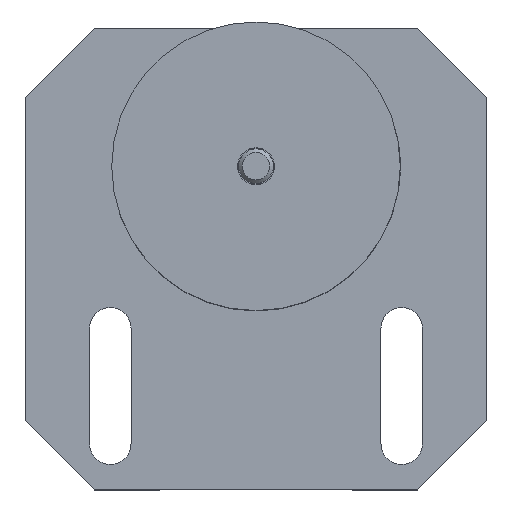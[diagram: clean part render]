
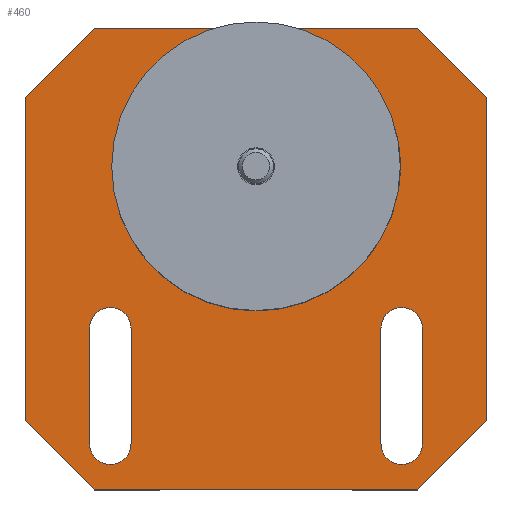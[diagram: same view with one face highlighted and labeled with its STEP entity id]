
A CAD part, top view. The second image highlights one B-rep face of the part: STEP entity #460.
In plain terms, the highlighted planar face has unit normal (0, 0, 1).
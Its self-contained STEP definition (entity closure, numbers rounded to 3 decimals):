
#460=ADVANCED_FACE('', (#470,#480,#490,#500), #510, .T.);
#3660=AXIS2_PLACEMENT_3D('Ax2Pl3d', #3670, #3680, #3690);
#3940=AXIS2_PLACEMENT_3D('Ax2Pl3d', #3950, #3960, #3970);
#4180=AXIS2_PLACEMENT_3D('Ax2Pl3d', #4190, #4200, #4210);
#4220=AXIS2_PLACEMENT_3D('Ax2Pl3d', #4230, #4240, #4250);
#4260=AXIS2_PLACEMENT_3D('Ax2Pl3d', #4270, #4280, #4290);
#4300=AXIS2_PLACEMENT_3D('Ax2Pl3d', #4310, #4320, #4330);
#4340=AXIS2_PLACEMENT_3D('Ax2Pl3d', #4350, #4360, #4370);
#18640=CARTESIAN_POINT('', (271.19,141.687,73.908));
#18650=CARTESIAN_POINT('', (303.19,141.687,73.908));
#18660=CARTESIAN_POINT('', (303.19,141.687,73.908));
#18750=CARTESIAN_POINT('', (271.19,151.687,73.908));
#3670=CARTESIAN_POINT('HicPkt', (271.19,146.687,
73.908));
#18810=CARTESIAN_POINT('', (303.19,151.687,73.908));
#18820=CARTESIAN_POINT('', (271.19,151.687,73.908));
#3950=CARTESIAN_POINT('HicPkt', (303.19,146.687,
73.908));
#4190=CARTESIAN_POINT('HicPkt', (327.19,156.687,
73.908));
#18920=CARTESIAN_POINT('', (259.19,170.687,73.908));
#18930=CARTESIAN_POINT('', (315.19,170.687,73.908));
#18940=CARTESIAN_POINT('', (259.19,170.687,73.908));
#18950=CARTESIAN_POINT('', (247.19,158.687,73.908));
#18960=CARTESIAN_POINT('', (247.19,158.687,73.908));
#18970=CARTESIAN_POINT('', (247.19,158.687,73.908));
#18980=CARTESIAN_POINT('', (247.19,102.687,73.908));
#18990=CARTESIAN_POINT('', (259.19,90.687,73.908));
#19000=CARTESIAN_POINT('', (259.19,90.687,73.908));
#19010=CARTESIAN_POINT('', (315.19,90.687,73.908));
#19020=CARTESIAN_POINT('', (315.19,90.687,73.908));
#19030=CARTESIAN_POINT('', (327.19,102.687,73.908));
#19040=CARTESIAN_POINT('', (327.19,102.687,73.908));
#19050=CARTESIAN_POINT('', (327.19,102.687,73.908));
#19060=CARTESIAN_POINT('', (327.19,158.687,73.908));
#19070=CARTESIAN_POINT('', (315.19,170.687,73.908));
#4230=CARTESIAN_POINT('HicPkt', (312.44,98.687,
73.908));
#19080=CARTESIAN_POINT('', (308.84,98.687,73.908));
#19090=CARTESIAN_POINT('', (316.04,98.687,73.908));
#19100=CARTESIAN_POINT('', (308.84,98.687,73.908));
#19110=CARTESIAN_POINT('', (308.84,118.687,73.908));
#4270=CARTESIAN_POINT('HicPkt', (312.44,118.687,
73.908));
#19120=CARTESIAN_POINT('', (316.04,118.687,73.908));
#19130=CARTESIAN_POINT('', (316.04,118.687,73.908));
#4310=CARTESIAN_POINT('HicPkt', (261.94,98.687,
73.908));
#19140=CARTESIAN_POINT('', (258.34,98.687,73.908));
#19150=CARTESIAN_POINT('', (265.54,98.687,73.908));
#19160=CARTESIAN_POINT('', (258.34,98.687,73.908));
#19170=CARTESIAN_POINT('', (258.34,118.687,73.908));
#4350=CARTESIAN_POINT('HicPkt', (261.94,118.687,
73.908));
#19180=CARTESIAN_POINT('', (265.54,118.687,73.908));
#19190=CARTESIAN_POINT('', (265.54,118.687,73.908));
#21130=CIRCLE('Circle', #3660, 5.);
#21160=CIRCLE('Circle', #3940, 5.);
#21200=CIRCLE('Circle', #4220, 3.6);
#21210=CIRCLE('Circle', #4260, 3.6);
#21220=CIRCLE('Circle', #4300, 3.6);
#21230=CIRCLE('Circle', #4340, 3.6);
#28420=DIRECTION('', (1.,0.,0.));
#3680=DIRECTION('Axis', (0.,0.,1.));
#3690=DIRECTION('RefDirection', (1.,0.,0.));
#28510=DIRECTION('', (-1.,0.,0.));
#3960=DIRECTION('Axis', (0.,0.,1.));
#3970=DIRECTION('RefDirection', (1.,0.,0.));
#4200=DIRECTION('Axis', (0.,0.,1.));
#4210=DIRECTION('RefDirection', (1.,0.,0.));
#28560=DIRECTION('', (-1.,0.,0.));
#28570=DIRECTION('', (-0.707,-0.707,0.));
#28580=DIRECTION('', (0.,1.,0.));
#28590=DIRECTION('', (0.707,-0.707,0.));
#28600=DIRECTION('', (1.,0.,0.));
#28610=DIRECTION('', (0.707,0.707,0.));
#28620=DIRECTION('', (0.,-1.,0.));
#28630=DIRECTION('', (-0.707,0.707,0.));
#4240=DIRECTION('Axis', (0.,0.,1.));
#4250=DIRECTION('RefDirection', (1.,0.,0.));
#28640=DIRECTION('', (0.,-1.,0.));
#4280=DIRECTION('Axis', (0.,0.,1.));
#4290=DIRECTION('RefDirection', (1.,0.,0.));
#28650=DIRECTION('', (0.,1.,0.));
#4320=DIRECTION('Axis', (0.,0.,1.));
#4330=DIRECTION('RefDirection', (1.,0.,0.));
#28660=DIRECTION('', (0.,-1.,0.));
#4360=DIRECTION('Axis', (0.,0.,1.));
#4370=DIRECTION('RefDirection', (1.,0.,0.));
#28670=DIRECTION('', (0.,1.,0.));
#29670=EDGE_CURVE('', #29650, #29680, #29690, .T.);
#29850=EDGE_CURVE('', #29830, #29650, #21130, .T.);
#29960=EDGE_CURVE('', #29940, #29830, #29970, .T.);
#30040=EDGE_CURVE('', #29680, #29940, #21160, .T.);
#30160=EDGE_CURVE('', #30170, #30180, #30190, .T.);
#30200=EDGE_CURVE('', #30180, #30210, #30220, .T.);
#30230=EDGE_CURVE('', #30240, #30210, #30250, .T.);
#30260=EDGE_CURVE('', #30240, #30270, #30280, .T.);
#30290=EDGE_CURVE('', #30270, #30300, #30310, .T.);
#30320=EDGE_CURVE('', #30300, #30330, #30340, .T.);
#30350=EDGE_CURVE('', #30360, #30330, #30370, .T.);
#30380=EDGE_CURVE('', #30360, #30170, #30390, .T.);
#30400=EDGE_CURVE('', #30410, #30420, #21200, .T.);
#30430=EDGE_CURVE('', #30440, #30410, #30450, .T.);
#30460=EDGE_CURVE('', #30470, #30440, #21210, .T.);
#30480=EDGE_CURVE('', #30420, #30470, #30490, .T.);
#30500=EDGE_CURVE('', #30510, #30520, #21220, .T.);
#30530=EDGE_CURVE('', #30540, #30510, #30550, .T.);
#30560=EDGE_CURVE('', #30570, #30540, #21230, .T.);
#30580=EDGE_CURVE('', #30520, #30570, #30590, .T.);
#34460=EDGE_LOOP('Edge_loop', (#34470,#34480,#34490,#34500,#34510,
#34520,#34530,#34540));
#34550=EDGE_LOOP('Edge_loop', (#34560,#34570,#34580,#34590));
#34600=EDGE_LOOP('Edge_loop', (#34610,#34620,#34630,#34640));
#34650=EDGE_LOOP('Edge_loop', (#34660,#34670,#34680,#34690));
#480=FACE_BOUND('', #34550, .T.);
#490=FACE_BOUND('', #34600, .T.);
#500=FACE_BOUND('', #34650, .T.);
#470=FACE_OUTER_BOUND('Face_outer_bound', #34460, .T.);
#29690=LINE('Line', #18650, #41390);
#29970=LINE('Line', #18820, #41480);
#30190=LINE('Line', #18920, #41530);
#30220=LINE('Line', #18950, #41540);
#30250=LINE('Line', #18970, #41550);
#30280=LINE('Line', #18990, #41560);
#30310=LINE('Line', #19010, #41570);
#30340=LINE('Line', #19030, #41580);
#30370=LINE('Line', #19050, #41590);
#30390=LINE('Line', #19070, #41600);
#30450=LINE('Line', #19100, #41610);
#30490=LINE('Line', #19130, #41620);
#30550=LINE('Line', #19160, #41630);
#30590=LINE('Line', #19190, #41640);
#34470=ORIENTED_EDGE('', *, *, #30160, .T.);
#34480=ORIENTED_EDGE('', *, *, #30200, .T.);
#34490=ORIENTED_EDGE('', *, *, #30230, .F.);
#34500=ORIENTED_EDGE('', *, *, #30260, .T.);
#34510=ORIENTED_EDGE('', *, *, #30290, .T.);
#34520=ORIENTED_EDGE('', *, *, #30320, .T.);
#34530=ORIENTED_EDGE('', *, *, #30350, .F.);
#34540=ORIENTED_EDGE('', *, *, #30380, .T.);
#34560=ORIENTED_EDGE('', *, *, #30400, .F.);
#34570=ORIENTED_EDGE('', *, *, #30430, .F.);
#34580=ORIENTED_EDGE('', *, *, #30460, .F.);
#34590=ORIENTED_EDGE('', *, *, #30480, .F.);
#34610=ORIENTED_EDGE('', *, *, #30500, .F.);
#34620=ORIENTED_EDGE('', *, *, #30530, .F.);
#34630=ORIENTED_EDGE('', *, *, #30560, .F.);
#34640=ORIENTED_EDGE('', *, *, #30580, .F.);
#34660=ORIENTED_EDGE('', *, *, #30040, .F.);
#34670=ORIENTED_EDGE('', *, *, #29670, .F.);
#34680=ORIENTED_EDGE('', *, *, #29850, .F.);
#34690=ORIENTED_EDGE('', *, *, #29960, .F.);
#510=PLANE('Plane', #4180);
#41390=VECTOR('', #28420, 32.);
#41480=VECTOR('', #28510, 32.);
#41530=VECTOR('', #28560, 56.);
#41540=VECTOR('', #28570, 16.971);
#41550=VECTOR('', #28580, 56.);
#41560=VECTOR('', #28590, 16.971);
#41570=VECTOR('', #28600, 56.);
#41580=VECTOR('', #28610, 16.971);
#41590=VECTOR('', #28620, 56.);
#41600=VECTOR('', #28630, 16.971);
#41610=VECTOR('', #28640, 20.);
#41620=VECTOR('', #28650, 20.);
#41630=VECTOR('', #28660, 20.);
#41640=VECTOR('', #28670, 20.);
#29650=VERTEX_POINT('', #18640);
#29680=VERTEX_POINT('', #18660);
#29830=VERTEX_POINT('', #18750);
#29940=VERTEX_POINT('', #18810);
#30170=VERTEX_POINT('', #18930);
#30180=VERTEX_POINT('', #18940);
#30210=VERTEX_POINT('', #18960);
#30240=VERTEX_POINT('', #18980);
#30270=VERTEX_POINT('', #19000);
#30300=VERTEX_POINT('', #19020);
#30330=VERTEX_POINT('', #19040);
#30360=VERTEX_POINT('', #19060);
#30410=VERTEX_POINT('', #19080);
#30420=VERTEX_POINT('', #19090);
#30440=VERTEX_POINT('', #19110);
#30470=VERTEX_POINT('', #19120);
#30510=VERTEX_POINT('', #19140);
#30520=VERTEX_POINT('', #19150);
#30540=VERTEX_POINT('', #19170);
#30570=VERTEX_POINT('', #19180);
